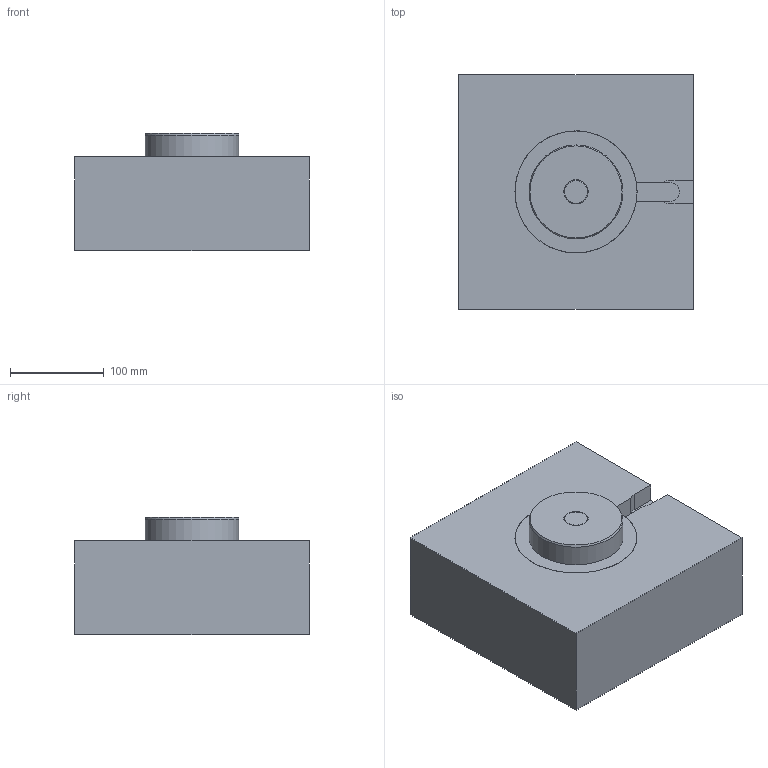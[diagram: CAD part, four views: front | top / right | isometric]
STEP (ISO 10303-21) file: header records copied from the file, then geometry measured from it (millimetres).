
FILE_DESCRIPTION( ( 'STEP AP214' ), '1' );
FILE_NAME( 'D:/PROIECTE_YUDO_2009/PROIECTE YUDO 3D/BLS/YUEU-BLS25CC070/YUEU-BLS25CC070.step', '2009-03-10T13:06:57', ( ' ' ), ( ' ' ), 'XStep 1.0', ' ', ' ' );
FILE_SCHEMA( ( 'automotive_design' ) );
Length unit declared in the file: millimetre
Products named in the file (4): 1; 2; 3; 4
Bounding box: 250 x 250 x 125 mm (x, y, z)
Volume: 6321055.7 mm3; surface area: 312753 mm2
Topology: 4 solids, 4 shells, 110 faces, 260 edges, 169 vertices
Faces by surface type: plane 60, cylinder 35, cone 12, bspline 2, torus 1
Full cylindrical faces by diameter (mm): 20 x1, 22.9 x1, 24.991 x1, 25 x4, 33.547 x1, 37 x2, 44.998 x1, 45 x2, 61.8 x1, 62.8 x2, 100 x1, 130 x1
Entity records: 3969 total; most frequent: CARTESIAN_POINT 638, DIRECTION 506, ORIENTED_EDGE 440, EDGE_CURVE 220, AXIS2_PLACEMENT_3D 198, VERTEX_POINT 162, EDGE_LOOP 156, FACE_OUTER_BOUND 131
